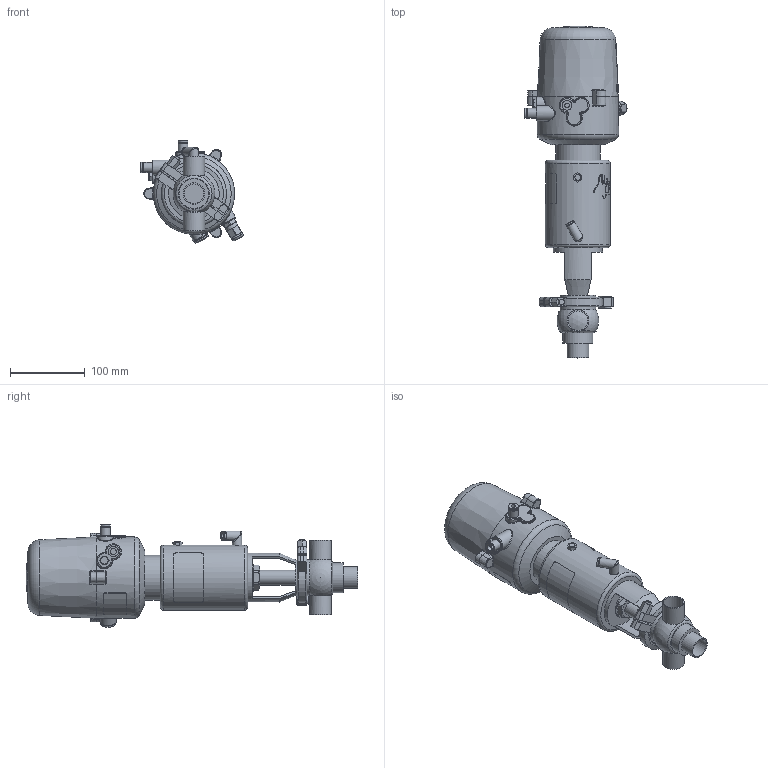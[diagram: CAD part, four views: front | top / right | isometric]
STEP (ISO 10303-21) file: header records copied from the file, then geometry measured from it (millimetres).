
FILE_DESCRIPTION (( 'STEP AP214' ), '1' );
FILE_NAME ('INNOVA N T W DIN 025 T1 AS NC & C-TOP S_10.240.16.0058.STEP', '2024-08-06T08:15:03', ( '' ), ( '' ), 'SwSTEP 2.0', 'SolidWorks 2023', '' );
FILE_SCHEMA (( 'AUTOMOTIVE_DESIGN' ));
Length unit declared in the file: millimetre
Products named in the file (7): 10.240.15.0017_Estàndard; 10.240.15.0001_DN 025; 10.240.15.0010_DN 025; 10.426.15.0001_C-TOP S - 1 EV; 10.240.15.0014_T1 AS P0; INNOVA N T W DIN 025 T1 AS NC & C-TOP S_10.240.16.0058; 10.240.15.0003_DIN 025
Assembly tree (6 placements, depth 2):
  INNOVA N T W DIN 025 T1 AS NC & C-TOP S_10.240.16.0058
    10.240.15.0003_DIN 025
    10.240.15.0010_DN 025
    10.240.15.0014_T1 AS P0
    10.240.15.0017_Estàndard
    10.426.15.0001_C-TOP S - 1 EV
    10.240.15.0001_DN 025
Bounding box: 136.88 x 445 x 137.63 mm (x, y, z)
Volume: 2371935.9 mm3; surface area: 199780.9 mm2
Topology: 6 solids, 6 shells, 1109 faces, 2673 edges, 1782 vertices
Faces by surface type: plane 376, cylinder 333, cone 195, bspline 160, torus 37, sphere 8
Full cylindrical faces by diameter (mm): 0.371 x17, 0.512 x16, 0.658 x16, 0.795 x16, 0.94 x15, 1.098 x15, 1.241 x13, 1.382 x13, 1.523 x11, 1.669 x10, 2.201 x1, 4 x2, 5.5 x2, 6 x2, 6.15 x1, 8 x4, 8.5 x1, 10 x1, 10.5 x1, 11 x2, 12.5 x3, 13 x2, 13.5 x2, 16 x1, 17 x3, 20 x3, 20.5 x1, 22 x2, 26 x3, 29 x3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
Entity records: 56972 total; most frequent: CARTESIAN_POINT 26781, ORIENTED_EDGE 4536, DIRECTION 3649, EDGE_CURVE 2268, VERTEX_POINT 1609, EDGE_LOOP 1557, AXIS2_PLACEMENT_3D 1492, FACE_OUTER_BOUND 1323
